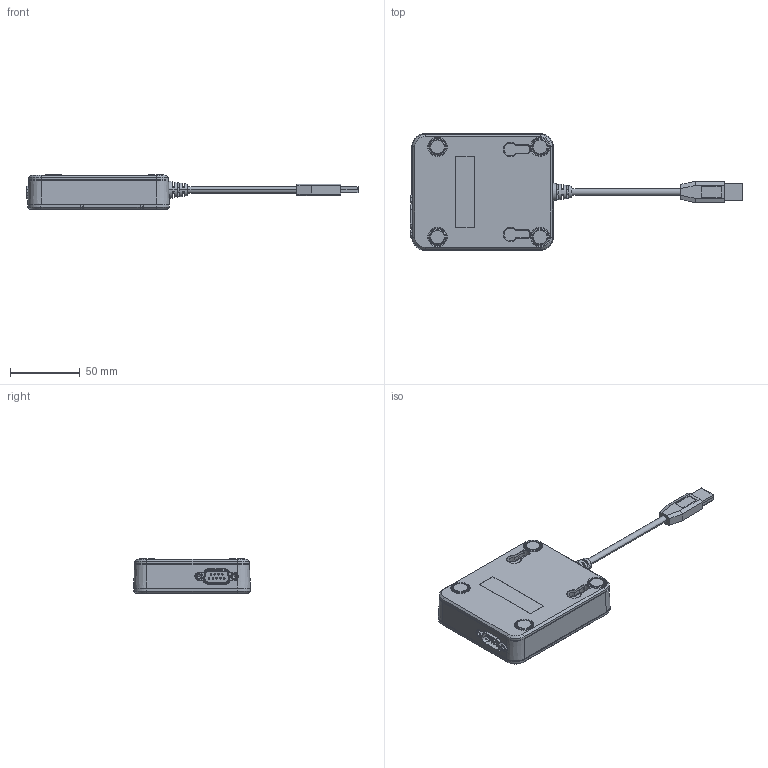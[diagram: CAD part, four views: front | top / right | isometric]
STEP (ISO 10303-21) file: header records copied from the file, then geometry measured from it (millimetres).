
FILE_DESCRIPTION((''),'2;1');
FILE_NAME('CU_USB-850X_1PORT','2017-10-26T',('dkendric'),(''),'CREO PARAMETRIC BY PTC INC, 2015380','CREO PARAMETRIC BY PTC INC, 2015380','');
FILE_SCHEMA(('CONFIG_CONTROL_DESIGN'));
Products named in the file (1): CU_USB-850X_1PORT
Bounding box: 238.27 x 83.82 x 24.89 mm (x, y, z)
Volume: 70223.7 mm3; surface area: 64440 mm2
Topology: 2 solids, 2 shells, 3102 faces, 7406 edges, 4323 vertices
Faces by surface type: cylinder 1067, plane 906, bspline 522, torus 215, cone 210, sphere 182
Entity records: 121379 total; most frequent: CARTESIAN_POINT 54078, ORIENTED_EDGE 14732, DIRECTION 13144, EDGE_CURVE 7366, AXIS2_PLACEMENT_3D 4882, VERTEX_POINT 4323, VECTOR 3380, LINE 3380
